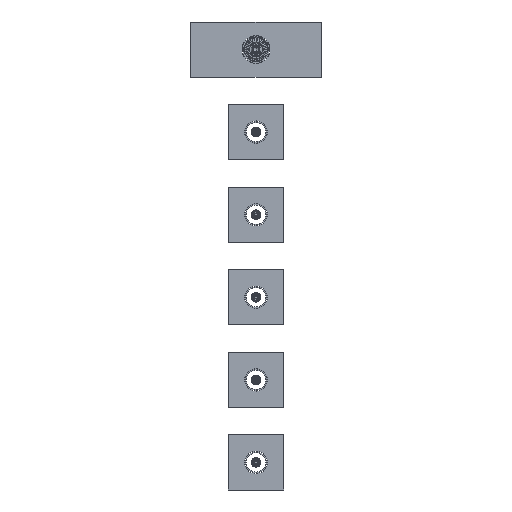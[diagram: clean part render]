
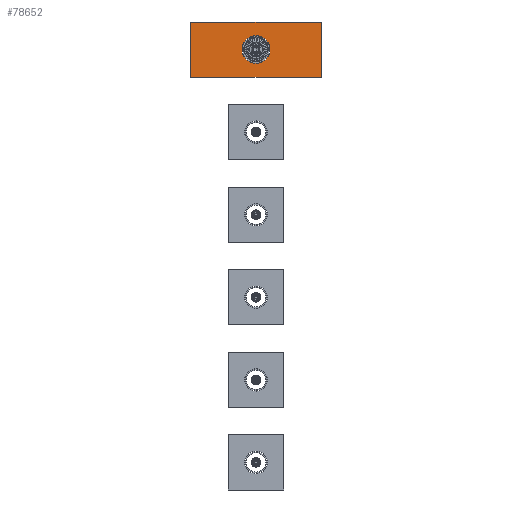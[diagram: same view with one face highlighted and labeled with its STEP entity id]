
A CAD part, front view. The second image highlights one B-rep face of the part: STEP entity #78652.
In plain terms, the highlighted planar face has unit normal (0, -1, 0).
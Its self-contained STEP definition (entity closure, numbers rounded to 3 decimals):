
#71028=DIRECTION('',(0.,0.,1.));
#71029=VECTOR('',#71028,80.);
#71030=CARTESIAN_POINT('',(-95.,84.7,-40.));
#71031=LINE('',#71030,#71029);
#71032=DIRECTION('',(1.,0.,0.));
#71033=VECTOR('',#71032,190.);
#71034=CARTESIAN_POINT('',(-95.,84.7,40.));
#71035=LINE('',#71034,#71033);
#71036=DIRECTION('',(0.,0.,-1.));
#71037=VECTOR('',#71036,80.);
#71038=CARTESIAN_POINT('',(95.,84.7,40.));
#71039=LINE('',#71038,#71037);
#71040=DIRECTION('',(-1.,0.,0.));
#71041=VECTOR('',#71040,190.);
#71042=CARTESIAN_POINT('',(95.,84.7,-40.));
#71043=LINE('',#71042,#71041);
#71044=CARTESIAN_POINT('',(0.,84.7,0.));
#71045=DIRECTION('',(0.,-1.,0.));
#71046=DIRECTION('',(1.,0.,0.));
#71047=AXIS2_PLACEMENT_3D('',#71044,#71045,#71046);
#71049=CARTESIAN_POINT('',(0.,84.7,0.));
#71050=DIRECTION('',(0.,-1.,0.));
#71051=DIRECTION('',(-1.,0.,0.));
#71052=AXIS2_PLACEMENT_3D('',#71049,#71050,#71051);
#75426=CARTESIAN_POINT('',(20.25,84.7,0.));
#75427=CARTESIAN_POINT('',(-20.25,84.7,0.));
#75428=VERTEX_POINT('',#75426);
#75429=VERTEX_POINT('',#75427);
#75430=CARTESIAN_POINT('',(-95.,84.7,-40.));
#75431=CARTESIAN_POINT('',(-95.,84.7,40.));
#75432=VERTEX_POINT('',#75430);
#75433=VERTEX_POINT('',#75431);
#75434=CARTESIAN_POINT('',(95.,84.7,40.));
#75435=VERTEX_POINT('',#75434);
#75436=CARTESIAN_POINT('',(95.,84.7,-40.));
#75437=VERTEX_POINT('',#75436);
#78632=CARTESIAN_POINT('',(0.,84.7,0.));
#78633=DIRECTION('',(0.,1.,0.));
#78634=DIRECTION('',(1.,0.,0.));
#78635=AXIS2_PLACEMENT_3D('',#78632,#78633,#78634);
#78636=PLANE('',#78635);
#78637=ORIENTED_EDGE('',*,*,#78622,.T.);
#78639=ORIENTED_EDGE('',*,*,#78638,.T.);
#78641=ORIENTED_EDGE('',*,*,#78640,.T.);
#78643=ORIENTED_EDGE('',*,*,#78642,.T.);
#78644=EDGE_LOOP('',(#78637,#78639,#78641,#78643));
#78645=FACE_OUTER_BOUND('',#78644,.F.);
#78647=ORIENTED_EDGE('',*,*,#78646,.T.);
#78649=ORIENTED_EDGE('',*,*,#78648,.T.);
#78650=EDGE_LOOP('',(#78647,#78649));
#78651=FACE_BOUND('',#78650,.F.);
#78652=ADVANCED_FACE('',(#78645,#78651),#78636,.F.);
#71048=CIRCLE('',#71047,20.25);
#71053=CIRCLE('',#71052,20.25);
#78622=EDGE_CURVE('',#75432,#75433,#71031,.T.);
#78638=EDGE_CURVE('',#75433,#75435,#71035,.T.);
#78640=EDGE_CURVE('',#75435,#75437,#71039,.T.);
#78642=EDGE_CURVE('',#75437,#75432,#71043,.T.);
#78646=EDGE_CURVE('',#75428,#75429,#71048,.T.);
#78648=EDGE_CURVE('',#75429,#75428,#71053,.T.);
